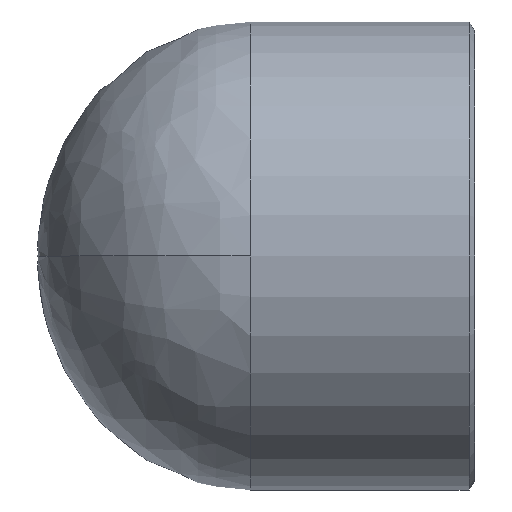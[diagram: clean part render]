
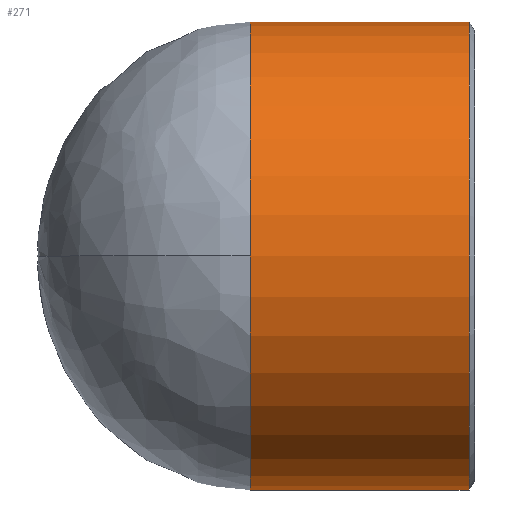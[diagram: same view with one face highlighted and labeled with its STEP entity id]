
A CAD part, left-side view. The second image highlights one B-rep face of the part: STEP entity #271.
In plain terms, the highlighted cylindrical face has radius 13.6 mm (diameter 27.2 mm), a partial arc.
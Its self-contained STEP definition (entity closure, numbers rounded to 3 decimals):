
#22 = CARTESIAN_POINT ( 'NONE',  ( 0., 13.036, -13.6 ) ) ;
#35 = VECTOR ( 'NONE', #311, 1000. ) ;
#42 = LINE ( 'NONE', #82, #444 ) ;
#44 = DIRECTION ( 'NONE',  ( 0., -1., 0. ) ) ;
#47 = DIRECTION ( 'NONE',  ( 0., -1., 0. ) ) ;
#49 = DIRECTION ( 'NONE',  ( 0., -1., 0. ) ) ;
#67 = VERTEX_POINT ( 'NONE', #379 ) ;
#75 = EDGE_CURVE ( 'NONE', #217, #325, #313, .T. ) ;
#82 = CARTESIAN_POINT ( 'NONE',  ( 0., 0., -13.6 ) ) ;
#84 = ORIENTED_EDGE ( 'NONE', *, *, #461, .T. ) ;
#95 = DIRECTION ( 'NONE',  ( 0., -1., 0. ) ) ;
#99 = CARTESIAN_POINT ( 'NONE',  ( 0., 13.036, 13.6 ) ) ;
#107 = ORIENTED_EDGE ( 'NONE', *, *, #75, .T. ) ;
#113 = ORIENTED_EDGE ( 'NONE', *, *, #139, .T. ) ;
#127 = AXIS2_PLACEMENT_3D ( 'NONE', #422, #95, #420 ) ;
#139 = EDGE_CURVE ( 'NONE', #67, #457, #456, .T. ) ;
#145 = ORIENTED_EDGE ( 'NONE', *, *, #342, .F. ) ;
#170 = CIRCLE ( 'NONE', #195, 13.6 ) ;
#171 = CARTESIAN_POINT ( 'NONE',  ( 0., 0.319, 0. ) ) ;
#174 = LINE ( 'NONE', #208, #35 ) ;
#195 = AXIS2_PLACEMENT_3D ( 'NONE', #257, #44, #408 ) ;
#205 = DIRECTION ( 'NONE',  ( 0., 0., 1. ) ) ;
#208 = CARTESIAN_POINT ( 'NONE',  ( 0., 0., 13.6 ) ) ;
#217 = VERTEX_POINT ( 'NONE', #99 ) ;
#253 = VERTEX_POINT ( 'NONE', #22 ) ;
#257 = CARTESIAN_POINT ( 'NONE',  ( 0., 13.036, 0. ) ) ;
#265 = DIRECTION ( 'NONE',  ( 0., 0., -1. ) ) ;
#269 = FACE_OUTER_BOUND ( 'NONE', #292, .T. ) ;
#271 = ADVANCED_FACE ( 'NONE', ( #269 ), #463, .T. ) ;
#274 = CARTESIAN_POINT ( 'NONE',  ( -13.6, 13.036, 0. ) ) ;
#292 = EDGE_LOOP ( 'NONE', ( #145, #107, #84, #382, #113 ) ) ;
#311 = DIRECTION ( 'NONE',  ( 0., -1., 0. ) ) ;
#313 = CIRCLE ( 'NONE', #405, 13.6 ) ;
#319 = DIRECTION ( 'NONE',  ( 0., 1., 0. ) ) ;
#325 = VERTEX_POINT ( 'NONE', #274 ) ;
#328 = CARTESIAN_POINT ( 'NONE',  ( 0., 0.319, 13.6 ) ) ;
#342 = EDGE_CURVE ( 'NONE', #217, #457, #174, .T. ) ;
#344 = CARTESIAN_POINT ( 'NONE',  ( 0., 13.036, 0. ) ) ;
#354 = AXIS2_PLACEMENT_3D ( 'NONE', #171, #319, #205 ) ;
#379 = CARTESIAN_POINT ( 'NONE',  ( 0., 0.319, -13.6 ) ) ;
#382 = ORIENTED_EDGE ( 'NONE', *, *, #398, .T. ) ;
#398 = EDGE_CURVE ( 'NONE', #253, #67, #42, .T. ) ;
#405 = AXIS2_PLACEMENT_3D ( 'NONE', #344, #47, #265 ) ;
#408 = DIRECTION ( 'NONE',  ( 0., 0., -1. ) ) ;
#420 = DIRECTION ( 'NONE',  ( 0., 0., -1. ) ) ;
#422 = CARTESIAN_POINT ( 'NONE',  ( 0., 0., 0. ) ) ;
#444 = VECTOR ( 'NONE', #49, 1000. ) ;
#456 = CIRCLE ( 'NONE', #354, 13.6 ) ;
#457 = VERTEX_POINT ( 'NONE', #328 ) ;
#461 = EDGE_CURVE ( 'NONE', #325, #253, #170, .T. ) ;
#463 = CYLINDRICAL_SURFACE ( 'NONE', #127, 13.6 ) ;
